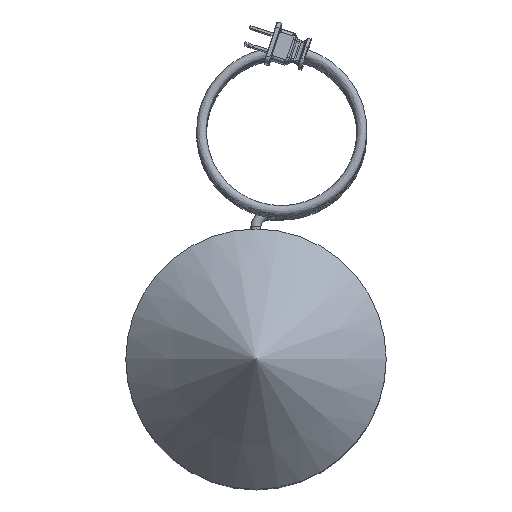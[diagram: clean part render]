
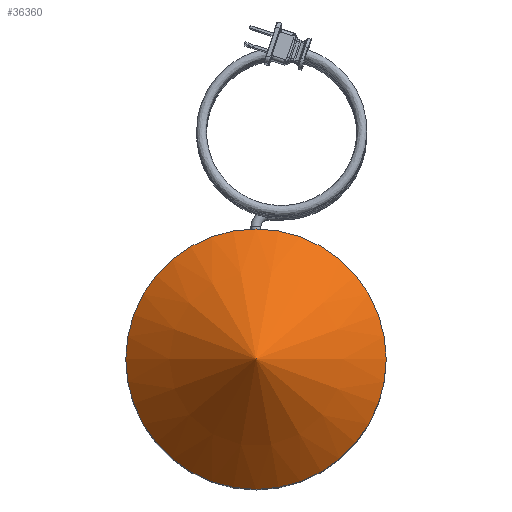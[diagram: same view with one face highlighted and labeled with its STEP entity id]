
A CAD part, top view. The second image highlights one B-rep face of the part: STEP entity #36360.
In plain terms, the highlighted conical face has half-angle 47.291 degrees and reference radius 82.55 mm.
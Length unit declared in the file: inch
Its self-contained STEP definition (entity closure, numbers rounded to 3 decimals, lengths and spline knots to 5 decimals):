
#113=CONICAL_SURFACE('',#38074,3.25,0.825);
#5876=FACE_OUTER_BOUND('',#8044,.T.);
#8044=EDGE_LOOP('',(#34236,#34237,#34238));
#11307=LINE('',#76250,#14570);
#14570=VECTOR('',#44431,3.25);
#14908=CIRCLE('',#38073,3.25);
#18381=VERTEX_POINT('',#76245);
#18382=VERTEX_POINT('',#76249);
#23667=EDGE_CURVE('',#18381,#18381,#14908,.T.);
#23668=EDGE_CURVE('',#18382,#18381,#11307,.T.);
#34236=ORIENTED_EDGE('',*,*,#23668,.T.);
#34237=ORIENTED_EDGE('',*,*,#23667,.T.);
#34238=ORIENTED_EDGE('',*,*,#23668,.F.);
#36360=ADVANCED_FACE('',(#5876),#113,.T.);
#38073=AXIS2_PLACEMENT_3D('',#76247,#44427,#44428);
#38074=AXIS2_PLACEMENT_3D('',#76248,#44429,#44430);
#44427=DIRECTION('center_axis',(0.,0.,-1.));
#44428=DIRECTION('ref_axis',(1.,0.,0.));
#44429=DIRECTION('center_axis',(0.,0.,1.));
#44430=DIRECTION('ref_axis',(1.,0.,0.));
#44431=DIRECTION('',(-0.735,0.,0.678));
#76245=CARTESIAN_POINT('',(-3.25,0.,3.));
#76247=CARTESIAN_POINT('Origin',(0.,0.,3.));
#76248=CARTESIAN_POINT('Origin',(0.,0.,3.));
#76249=CARTESIAN_POINT('',(0.,0.,0.));
#76250=CARTESIAN_POINT('',(-3.25,0.,3.));
